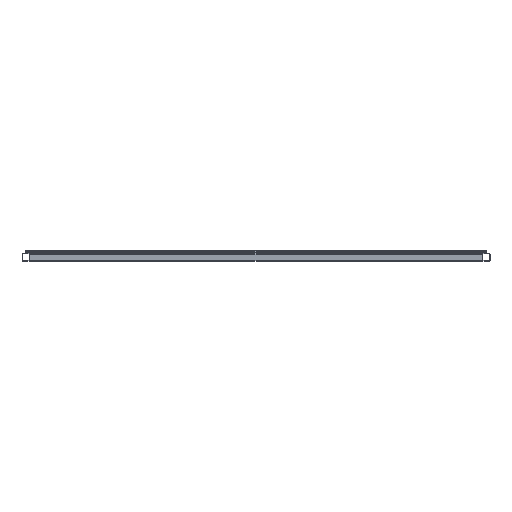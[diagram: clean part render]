
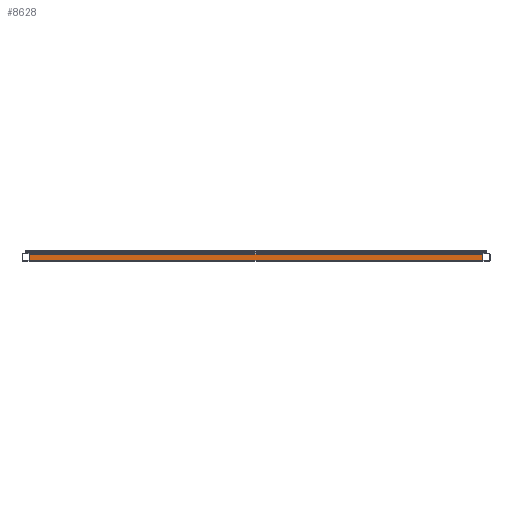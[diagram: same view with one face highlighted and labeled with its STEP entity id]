
A CAD part, front view. The second image highlights one B-rep face of the part: STEP entity #8628.
In plain terms, the highlighted planar face has unit normal (0, -1, 0).
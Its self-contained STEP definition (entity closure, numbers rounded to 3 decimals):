
#144 = VECTOR ( 'NONE', #5850, 1000. ) ;
#266 = PLANE ( 'NONE',  #1620 ) ;
#1145 = CARTESIAN_POINT ( 'NONE',  ( 600., -844., -8. ) ) ;
#1324 = DIRECTION ( 'NONE',  ( 0., 0., -1. ) ) ;
#1620 = AXIS2_PLACEMENT_3D ( 'NONE', #3386, #1888, #9569 ) ;
#1888 = DIRECTION ( 'NONE',  ( 0., 1., 0. ) ) ;
#1909 = LINE ( 'NONE', #1145, #144 ) ;
#2377 = VECTOR ( 'NONE', #6971, 1000. ) ;
#2832 = ORIENTED_EDGE ( 'NONE', *, *, #7557, .F. ) ;
#2900 = CARTESIAN_POINT ( 'NONE',  ( 580., -844., 8. ) ) ;
#3378 = CARTESIAN_POINT ( 'NONE',  ( -580., -844., 8. ) ) ;
#3386 = CARTESIAN_POINT ( 'NONE',  ( 600., -844., -8. ) ) ;
#3438 = FACE_OUTER_BOUND ( 'NONE', #5206, .T. ) ;
#3561 = EDGE_CURVE ( 'NONE', #7723, #5871, #9145, .T. ) ;
#3793 = LINE ( 'NONE', #9415, #4340 ) ;
#4322 = VECTOR ( 'NONE', #1324, 1000. ) ;
#4340 = VECTOR ( 'NONE', #6338, 1000. ) ;
#4372 = ORIENTED_EDGE ( 'NONE', *, *, #3561, .F. ) ;
#4676 = EDGE_CURVE ( 'NONE', #7723, #6320, #3793, .T. ) ;
#4718 = EDGE_CURVE ( 'NONE', #5734, #6320, #7136, .T. ) ;
#5206 = EDGE_LOOP ( 'NONE', ( #5632, #2832, #4372, #7986 ) ) ;
#5584 = CARTESIAN_POINT ( 'NONE',  ( -580., -844., -8. ) ) ;
#5632 = ORIENTED_EDGE ( 'NONE', *, *, #4718, .F. ) ;
#5734 = VERTEX_POINT ( 'NONE', #5807 ) ;
#5807 = CARTESIAN_POINT ( 'NONE',  ( -580., -844., -8. ) ) ;
#5850 = DIRECTION ( 'NONE',  ( -1., 0., 0. ) ) ;
#5871 = VERTEX_POINT ( 'NONE', #8711 ) ;
#6320 = VERTEX_POINT ( 'NONE', #3378 ) ;
#6338 = DIRECTION ( 'NONE',  ( -1., 0., 0. ) ) ;
#6971 = DIRECTION ( 'NONE',  ( 0., 0., 1. ) ) ;
#7019 = CARTESIAN_POINT ( 'NONE',  ( 580., -844., -8. ) ) ;
#7136 = LINE ( 'NONE', #5584, #2377 ) ;
#7557 = EDGE_CURVE ( 'NONE', #5871, #5734, #1909, .T. ) ;
#7723 = VERTEX_POINT ( 'NONE', #2900 ) ;
#7986 = ORIENTED_EDGE ( 'NONE', *, *, #4676, .T. ) ;
#8628 = ADVANCED_FACE ( 'NONE', ( #3438 ), #266, .F. ) ;
#8711 = CARTESIAN_POINT ( 'NONE',  ( 580., -844., -8. ) ) ;
#9145 = LINE ( 'NONE', #7019, #4322 ) ;
#9415 = CARTESIAN_POINT ( 'NONE',  ( 600., -844., 8. ) ) ;
#9569 = DIRECTION ( 'NONE',  ( 0., 0., 1. ) ) ;
